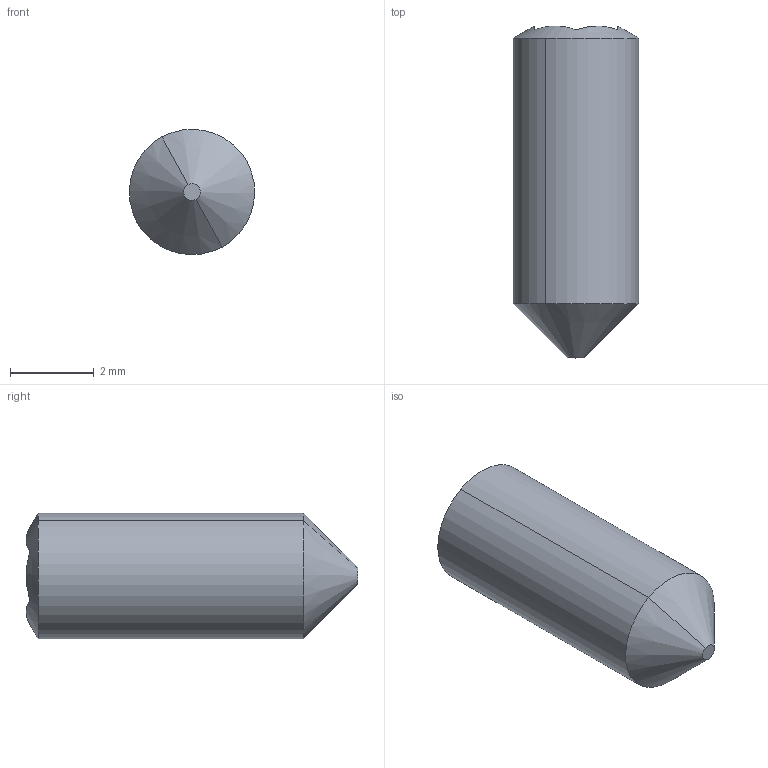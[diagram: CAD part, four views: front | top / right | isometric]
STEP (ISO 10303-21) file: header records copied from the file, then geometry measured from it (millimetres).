
FILE_DESCRIPTION(('3DEXPERIENCE STEP','CAx-IF Rec.Pracs.--- Model Styling and Organization---1.5--- 2016-08-15','CAx-IF Rec.Pracs.---Supplemental Geometry---1.0---2011-11-01','CAx-IF Rec.Pracs.--- Composite Materials ---3.4---2017-06-13','CAx-IF Rec.Pracs.---Tessellated 3D Geometry---1.0---2015-12-17'),'2;1');
FILE_NAME('\\?\D:\School\CarTech\CTU.25\Tutorials\Model\OEM\Setscrew_M4x8.stp','2024-09-26T02:37:05+00:00',('none'),('none'),'3DEXPERIENCE Platform3DEXPERIENCE R2024x HotFix 4.24','3DEXPERIENCE Platform STEP AP242 v3','none');
FILE_SCHEMA(('AP242_MANAGED_MODEL_BASED_3D_ENGINEERING_MIM_LF {1 0 10303 442 1 1 4}'));
Length unit declared in the file: millimetre
Products named in the file (1): Screw_CSN_02_1191_M4x8
Bounding box: 3 x 7.94 x 3 mm (x, y, z)
Volume: 41.4 mm3; surface area: 94.1 mm2
Topology: 1 solids, 1 shells, 14 faces, 32 edges, 20 vertices
Faces by surface type: plane 8, cone 4, cylinder 2
Entity records: 472 total; most frequent: CARTESIAN_POINT 164, ORIENTED_EDGE 64, DIRECTION 46, EDGE_CURVE 32, VERTEX_POINT 20, VECTOR 18, AXIS2_PLACEMENT_3D 18, LINE 18
